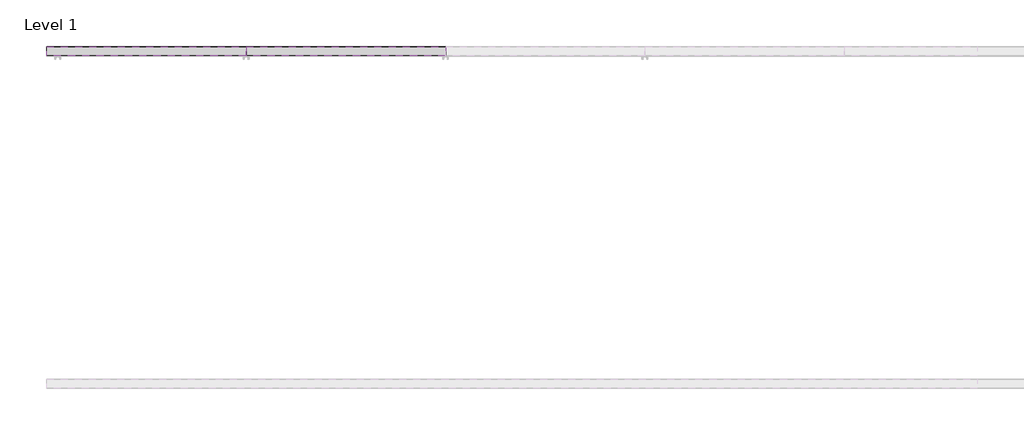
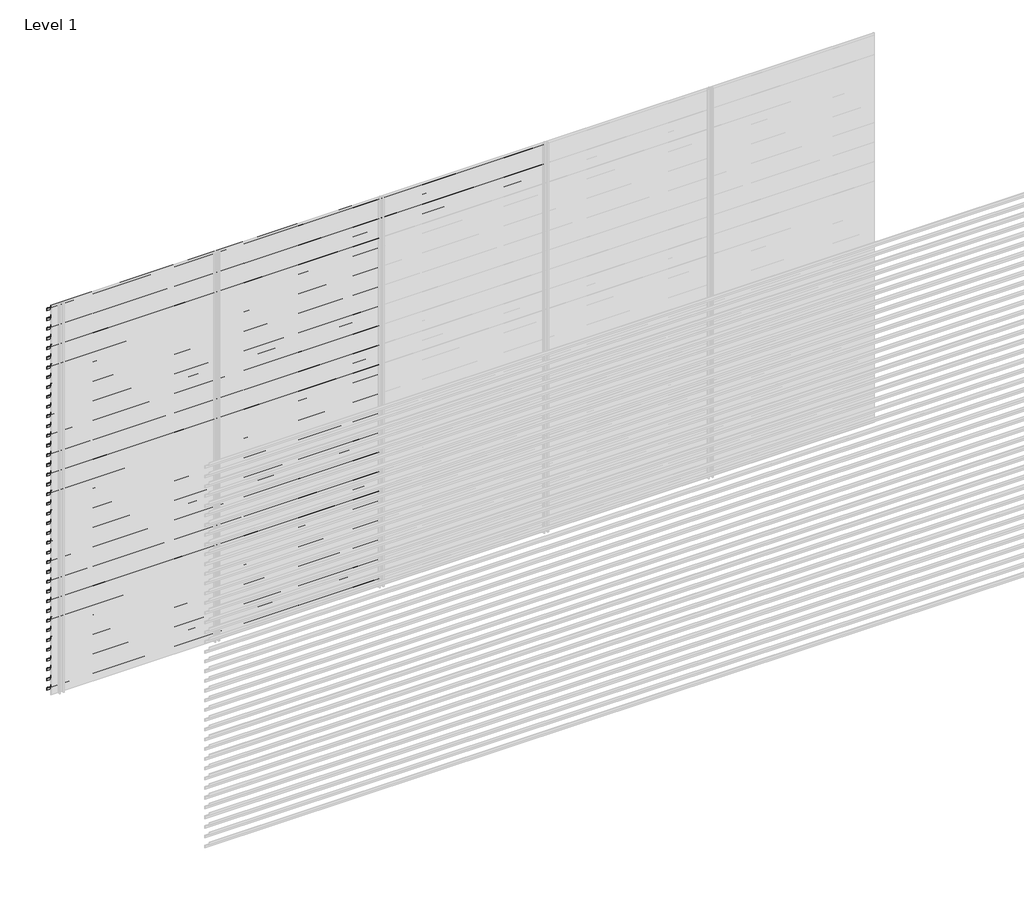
# One storey, part 47 of 55: 84 proxies.
"""IFC4 building model written with IfcOpenShell, lengths in millimetres."""

from ifc_helpers import new_model, si_unit, frame, origin, place, context, project, spatial, polyline, outline, extrude, element, save

model = new_model("IFC4")

# Units and contexts
model_context = context("Model", 3, world=origin())
ifc_project = project(units=[si_unit("LENGTHUNIT", "METRE", prefix="MILLI")], contexts=[model_context])

# Site, building, storey
site = spatial("IfcSite", under=ifc_project)
building = spatial("IfcBuilding", under=site)
storey = spatial("IfcBuildingStorey", under=building, Name="Level 1", Elevation=0.0)

# Proxies
placement = place(None, origin())
element("IfcBuildingElementProxy", 1, Name="Wall Sweeps", at=placement, inside=storey, context=model_context, shape_type="SweptSolid", body=[
    extrude(outline(polyline([(66581.0540136, 2943.5), (66581.0540136, 2923.5), (66579.8040136, 2924.2216933), (66579.8040136, 2942.7872415), (66526.0540136, 2980.3158044), (66526.0540136, 3000.0), (66527.3040136, 3000.0), (66527.3040136, 2981.0285629), (66581.0540136, 2943.5)])), frame((466.6208097, 0.0, 0.0), z_axis=(1.0, 0.0, 0.0), x_axis=(0.0, 1.0, 0.0)), (0.0, 0.0, 1.0), 1200.0000002),
])
element("IfcBuildingElementProxy", 2, Name="Wall Sweeps", at=placement, inside=storey, context=model_context, shape_type="SweptSolid", body=[
    extrude(outline(polyline([(66581.0540136, 2868.5), (66581.0540136, 2848.5), (66579.8040136, 2849.2216933), (66579.8040136, 2867.7872415), (66526.0540136, 2905.3158044), (66526.0540136, 2925.0), (66527.3040136, 2925.0), (66527.3040136, 2906.0285629), (66581.0540136, 2868.5)])), frame((466.6208097, 0.0, 0.0), z_axis=(1.0, 0.0, 0.0), x_axis=(0.0, 1.0, 0.0)), (0.0, 0.0, 1.0), 1200.0000002),
])
element("IfcBuildingElementProxy", 3, Name="Wall Sweeps", at=placement, inside=storey, context=model_context, shape_type="SweptSolid", body=[
    extrude(outline(polyline([(66581.0540136, 2793.5), (66581.0540136, 2773.5), (66579.8040136, 2774.2216933), (66579.8040136, 2792.7872415), (66526.0540136, 2830.3158044), (66526.0540136, 2850.0), (66527.3040136, 2850.0), (66527.3040136, 2831.0285629), (66581.0540136, 2793.5)])), frame((466.6208097, 0.0, 0.0), z_axis=(1.0, 0.0, 0.0), x_axis=(0.0, 1.0, 0.0)), (0.0, 0.0, 1.0), 1200.0000002),
])
element("IfcBuildingElementProxy", 4, Name="Wall Sweeps", at=placement, inside=storey, context=model_context, shape_type="SweptSolid", body=[
    extrude(outline(polyline([(66581.0540136, 2718.5), (66581.0540136, 2698.5), (66579.8040136, 2699.2216933), (66579.8040136, 2717.7872415), (66526.0540136, 2755.3158044), (66526.0540136, 2775.0), (66527.3040136, 2775.0), (66527.3040136, 2756.0285629), (66581.0540136, 2718.5)])), frame((466.6208097, 0.0, 0.0), z_axis=(1.0, 0.0, 0.0), x_axis=(0.0, 1.0, 0.0)), (0.0, 0.0, 1.0), 1200.0000002),
])
element("IfcBuildingElementProxy", 5, Name="Wall Sweeps", at=placement, inside=storey, context=model_context, shape_type="SweptSolid", body=[
    extrude(outline(polyline([(66581.0540136, 2643.5), (66581.0540136, 2623.5), (66579.8040136, 2624.2216933), (66579.8040136, 2642.7872415), (66526.0540136, 2680.3158044), (66526.0540136, 2700.0), (66527.3040136, 2700.0), (66527.3040136, 2681.0285629), (66581.0540136, 2643.5)])), frame((466.6208097, 0.0, 0.0), z_axis=(1.0, 0.0, 0.0), x_axis=(0.0, 1.0, 0.0)), (0.0, 0.0, 1.0), 1200.0000002),
])
element("IfcBuildingElementProxy", 6, Name="Wall Sweeps", at=placement, inside=storey, context=model_context, shape_type="SweptSolid", body=[
    extrude(outline(polyline([(66581.0540136, 2568.5), (66581.0540136, 2548.5), (66579.8040136, 2549.2216933), (66579.8040136, 2567.7872415), (66526.0540136, 2605.3158044), (66526.0540136, 2625.0), (66527.3040136, 2625.0), (66527.3040136, 2606.0285629), (66581.0540136, 2568.5)])), frame((466.6208097, 0.0, 0.0), z_axis=(1.0, 0.0, 0.0), x_axis=(0.0, 1.0, 0.0)), (0.0, 0.0, 1.0), 1200.0000002),
])
element("IfcBuildingElementProxy", 7, Name="Wall Sweeps", at=placement, inside=storey, context=model_context, shape_type="SweptSolid", body=[
    extrude(outline(polyline([(66581.0540136, 2493.5), (66581.0540136, 2473.5), (66579.8040136, 2474.2216933), (66579.8040136, 2492.7872415), (66526.0540136, 2530.3158044), (66526.0540136, 2550.0), (66527.3040136, 2550.0), (66527.3040136, 2531.0285629), (66581.0540136, 2493.5)])), frame((466.6208097, 0.0, 0.0), z_axis=(1.0, 0.0, 0.0), x_axis=(0.0, 1.0, 0.0)), (0.0, 0.0, 1.0), 1200.0000002),
])
element("IfcBuildingElementProxy", 8, Name="Wall Sweeps", at=placement, inside=storey, context=model_context, shape_type="SweptSolid", body=[
    extrude(outline(polyline([(66581.0540136, 2418.5), (66581.0540136, 2398.5), (66579.8040136, 2399.2216933), (66579.8040136, 2417.7872415), (66526.0540136, 2455.3158044), (66526.0540136, 2475.0), (66527.3040136, 2475.0), (66527.3040136, 2456.0285629), (66581.0540136, 2418.5)])), frame((466.6208097, 0.0, 0.0), z_axis=(1.0, 0.0, 0.0), x_axis=(0.0, 1.0, 0.0)), (0.0, 0.0, 1.0), 1200.0000002),
])
element("IfcBuildingElementProxy", 9, Name="Wall Sweeps", at=placement, inside=storey, context=model_context, shape_type="SweptSolid", body=[
    extrude(outline(polyline([(66581.0540136, 2343.5), (66581.0540136, 2323.5), (66579.8040136, 2324.2216933), (66579.8040136, 2342.7872415), (66526.0540136, 2380.3158044), (66526.0540136, 2400.0), (66527.3040136, 2400.0), (66527.3040136, 2381.0285629), (66581.0540136, 2343.5)])), frame((466.6208097, 0.0, 0.0), z_axis=(1.0, 0.0, 0.0), x_axis=(0.0, 1.0, 0.0)), (0.0, 0.0, 1.0), 1200.0000002),
])
element("IfcBuildingElementProxy", 10, Name="Wall Sweeps", at=placement, inside=storey, context=model_context, shape_type="SweptSolid", body=[
    extrude(outline(polyline([(66581.0540136, 2268.5), (66581.0540136, 2248.5), (66579.8040136, 2249.2216933), (66579.8040136, 2267.7872415), (66526.0540136, 2305.3158044), (66526.0540136, 2325.0), (66527.3040136, 2325.0), (66527.3040136, 2306.0285629), (66581.0540136, 2268.5)])), frame((466.6208097, 0.0, 0.0), z_axis=(1.0, 0.0, 0.0), x_axis=(0.0, 1.0, 0.0)), (0.0, 0.0, 1.0), 1200.0000002),
])
element("IfcBuildingElementProxy", 11, Name="Wall Sweeps", at=placement, inside=storey, context=model_context, shape_type="SweptSolid", body=[
    extrude(outline(polyline([(66581.0540136, 2193.5), (66581.0540136, 2173.5), (66579.8040136, 2174.2216933), (66579.8040136, 2192.7872415), (66526.0540136, 2230.3158044), (66526.0540136, 2250.0), (66527.3040136, 2250.0), (66527.3040136, 2231.0285629), (66581.0540136, 2193.5)])), frame((466.6208097, 0.0, 0.0), z_axis=(1.0, 0.0, 0.0), x_axis=(0.0, 1.0, 0.0)), (0.0, 0.0, 1.0), 1200.0000002),
])
element("IfcBuildingElementProxy", 12, Name="Wall Sweeps", at=placement, inside=storey, context=model_context, shape_type="SweptSolid", body=[
    extrude(outline(polyline([(66581.0540136, 2118.5), (66581.0540136, 2098.5), (66579.8040136, 2099.2216933), (66579.8040136, 2117.7872415), (66526.0540136, 2155.3158044), (66526.0540136, 2175.0), (66527.3040136, 2175.0), (66527.3040136, 2156.0285629), (66581.0540136, 2118.5)])), frame((466.6208097, 0.0, 0.0), z_axis=(1.0, 0.0, 0.0), x_axis=(0.0, 1.0, 0.0)), (0.0, 0.0, 1.0), 1200.0000002),
])
element("IfcBuildingElementProxy", 13, Name="Wall Sweeps", at=placement, inside=storey, context=model_context, shape_type="SweptSolid", body=[
    extrude(outline(polyline([(66581.0540136, 2043.5), (66581.0540136, 2023.5), (66579.8040136, 2024.2216933), (66579.8040136, 2042.7872415), (66526.0540136, 2080.3158044), (66526.0540136, 2100.0), (66527.3040136, 2100.0), (66527.3040136, 2081.0285629), (66581.0540136, 2043.5)])), frame((466.6208097, 0.0, 0.0), z_axis=(1.0, 0.0, 0.0), x_axis=(0.0, 1.0, 0.0)), (0.0, 0.0, 1.0), 1200.0000002),
])
element("IfcBuildingElementProxy", 14, Name="Wall Sweeps", at=placement, inside=storey, context=model_context, shape_type="SweptSolid", body=[
    extrude(outline(polyline([(66581.0540136, 1968.5), (66581.0540136, 1948.5), (66579.8040136, 1949.2216933), (66579.8040136, 1967.7872415), (66526.0540136, 2005.3158044), (66526.0540136, 2025.0), (66527.3040136, 2025.0), (66527.3040136, 2006.0285629), (66581.0540136, 1968.5)])), frame((466.6208097, 0.0, 0.0), z_axis=(1.0, 0.0, 0.0), x_axis=(0.0, 1.0, 0.0)), (0.0, 0.0, 1.0), 1200.0000002),
])
element("IfcBuildingElementProxy", 15, Name="Wall Sweeps", at=placement, inside=storey, context=model_context, shape_type="SweptSolid", body=[
    extrude(outline(polyline([(66581.0540136, 1893.5), (66581.0540136, 1873.5), (66579.8040136, 1874.2216933), (66579.8040136, 1892.7872415), (66526.0540136, 1930.3158044), (66526.0540136, 1950.0), (66527.3040136, 1950.0), (66527.3040136, 1931.0285629), (66581.0540136, 1893.5)])), frame((466.6208097, 0.0, 0.0), z_axis=(1.0, 0.0, 0.0), x_axis=(0.0, 1.0, 0.0)), (0.0, 0.0, 1.0), 1200.0000002),
])
element("IfcBuildingElementProxy", 16, Name="Wall Sweeps", at=placement, inside=storey, context=model_context, shape_type="SweptSolid", body=[
    extrude(outline(polyline([(66581.0540136, 1818.5), (66581.0540136, 1798.5), (66579.8040136, 1799.2216933), (66579.8040136, 1817.7872415), (66526.0540136, 1855.3158044), (66526.0540136, 1875.0), (66527.3040136, 1875.0), (66527.3040136, 1856.0285629), (66581.0540136, 1818.5)])), frame((466.6208097, 0.0, 0.0), z_axis=(1.0, 0.0, 0.0), x_axis=(0.0, 1.0, 0.0)), (0.0, 0.0, 1.0), 1200.0000002),
])
element("IfcBuildingElementProxy", 17, Name="Wall Sweeps", at=placement, inside=storey, context=model_context, shape_type="SweptSolid", body=[
    extrude(outline(polyline([(66581.0540136, 1743.5), (66581.0540136, 1723.5), (66579.8040136, 1724.2216933), (66579.8040136, 1742.7872415), (66526.0540136, 1780.3158044), (66526.0540136, 1800.0), (66527.3040136, 1800.0), (66527.3040136, 1781.0285629), (66581.0540136, 1743.5)])), frame((466.6208097, 0.0, 0.0), z_axis=(1.0, 0.0, 0.0), x_axis=(0.0, 1.0, 0.0)), (0.0, 0.0, 1.0), 1200.0000002),
])
element("IfcBuildingElementProxy", 18, Name="Wall Sweeps", at=placement, inside=storey, context=model_context, shape_type="SweptSolid", body=[
    extrude(outline(polyline([(66581.0540136, 1668.5), (66581.0540136, 1648.5), (66579.8040136, 1649.2216933), (66579.8040136, 1667.7872415), (66526.0540136, 1705.3158044), (66526.0540136, 1725.0), (66527.3040136, 1725.0), (66527.3040136, 1706.0285629), (66581.0540136, 1668.5)])), frame((466.6208097, 0.0, 0.0), z_axis=(1.0, 0.0, 0.0), x_axis=(0.0, 1.0, 0.0)), (0.0, 0.0, 1.0), 1200.0000002),
])
element("IfcBuildingElementProxy", 19, Name="Wall Sweeps", at=placement, inside=storey, context=model_context, shape_type="SweptSolid", body=[
    extrude(outline(polyline([(66581.0540136, 1593.5), (66581.0540136, 1573.5), (66579.8040136, 1574.2216933), (66579.8040136, 1592.7872415), (66526.0540136, 1630.3158044), (66526.0540136, 1650.0), (66527.3040136, 1650.0), (66527.3040136, 1631.0285629), (66581.0540136, 1593.5)])), frame((466.6208097, 0.0, 0.0), z_axis=(1.0, 0.0, 0.0), x_axis=(0.0, 1.0, 0.0)), (0.0, 0.0, 1.0), 1200.0000002),
])
element("IfcBuildingElementProxy", 20, Name="Wall Sweeps", at=placement, inside=storey, context=model_context, shape_type="SweptSolid", body=[
    extrude(outline(polyline([(66581.0540136, 1518.5), (66581.0540136, 1498.5), (66579.8040136, 1499.2216933), (66579.8040136, 1517.7872415), (66526.0540136, 1555.3158044), (66526.0540136, 1575.0), (66527.3040136, 1575.0), (66527.3040136, 1556.0285629), (66581.0540136, 1518.5)])), frame((466.6208097, 0.0, 0.0), z_axis=(1.0, 0.0, 0.0), x_axis=(0.0, 1.0, 0.0)), (0.0, 0.0, 1.0), 1200.0000002),
])
element("IfcBuildingElementProxy", 21, Name="Wall Sweeps", at=placement, inside=storey, context=model_context, shape_type="SweptSolid", body=[
    extrude(outline(polyline([(66581.0540136, 1443.5), (66581.0540136, 1423.5), (66579.8040136, 1424.2216933), (66579.8040136, 1442.7872415), (66526.0540136, 1480.3158044), (66526.0540136, 1500.0), (66527.3040136, 1500.0), (66527.3040136, 1481.0285629), (66581.0540136, 1443.5)])), frame((466.6208097, 0.0, 0.0), z_axis=(1.0, 0.0, 0.0), x_axis=(0.0, 1.0, 0.0)), (0.0, 0.0, 1.0), 1200.0000002),
])
element("IfcBuildingElementProxy", 22, Name="Wall Sweeps", at=placement, inside=storey, context=model_context, shape_type="SweptSolid", body=[
    extrude(outline(polyline([(66581.0540136, 1368.5), (66581.0540136, 1348.5), (66579.8040136, 1349.2216933), (66579.8040136, 1367.7872415), (66526.0540136, 1405.3158044), (66526.0540136, 1425.0), (66527.3040136, 1425.0), (66527.3040136, 1406.0285629), (66581.0540136, 1368.5)])), frame((466.6208097, 0.0, 0.0), z_axis=(1.0, 0.0, 0.0), x_axis=(0.0, 1.0, 0.0)), (0.0, 0.0, 1.0), 1200.0000002),
])
element("IfcBuildingElementProxy", 23, Name="Wall Sweeps", at=placement, inside=storey, context=model_context, shape_type="SweptSolid", body=[
    extrude(outline(polyline([(66581.0540136, 1293.5), (66581.0540136, 1273.5), (66579.8040136, 1274.2216933), (66579.8040136, 1292.7872415), (66526.0540136, 1330.3158044), (66526.0540136, 1350.0), (66527.3040136, 1350.0), (66527.3040136, 1331.0285629), (66581.0540136, 1293.5)])), frame((466.6208097, 0.0, 0.0), z_axis=(1.0, 0.0, 0.0), x_axis=(0.0, 1.0, 0.0)), (0.0, 0.0, 1.0), 1200.0000002),
])
element("IfcBuildingElementProxy", 24, Name="Wall Sweeps", at=placement, inside=storey, context=model_context, shape_type="SweptSolid", body=[
    extrude(outline(polyline([(66581.0540136, 1218.5), (66581.0540136, 1198.5), (66579.8040136, 1199.2216933), (66579.8040136, 1217.7872415), (66526.0540136, 1255.3158044), (66526.0540136, 1275.0), (66527.3040136, 1275.0), (66527.3040136, 1256.0285629), (66581.0540136, 1218.5)])), frame((466.6208097, 0.0, 0.0), z_axis=(1.0, 0.0, 0.0), x_axis=(0.0, 1.0, 0.0)), (0.0, 0.0, 1.0), 1200.0000002),
])
element("IfcBuildingElementProxy", 25, Name="Wall Sweeps", at=placement, inside=storey, context=model_context, shape_type="SweptSolid", body=[
    extrude(outline(polyline([(66581.0540136, 1143.5), (66581.0540136, 1123.5), (66579.8040136, 1124.2216933), (66579.8040136, 1142.7872415), (66526.0540136, 1180.3158044), (66526.0540136, 1200.0), (66527.3040136, 1200.0), (66527.3040136, 1181.0285629), (66581.0540136, 1143.5)])), frame((466.6208097, 0.0, 0.0), z_axis=(1.0, 0.0, 0.0), x_axis=(0.0, 1.0, 0.0)), (0.0, 0.0, 1.0), 1200.0000002),
])
element("IfcBuildingElementProxy", 26, Name="Wall Sweeps", at=placement, inside=storey, context=model_context, shape_type="SweptSolid", body=[
    extrude(outline(polyline([(66581.0540136, 1068.5), (66581.0540136, 1048.5), (66579.8040136, 1049.2216933), (66579.8040136, 1067.7872415), (66526.0540136, 1105.3158044), (66526.0540136, 1125.0), (66527.3040136, 1125.0), (66527.3040136, 1106.0285629), (66581.0540136, 1068.5)])), frame((466.6208097, 0.0, 0.0), z_axis=(1.0, 0.0, 0.0), x_axis=(0.0, 1.0, 0.0)), (0.0, 0.0, 1.0), 1200.0000002),
])
element("IfcBuildingElementProxy", 27, Name="Wall Sweeps", at=placement, inside=storey, context=model_context, shape_type="SweptSolid", body=[
    extrude(outline(polyline([(66581.0540136, 993.5), (66581.0540136, 973.5), (66579.8040136, 974.2216933), (66579.8040136, 992.7872415), (66526.0540136, 1030.3158044), (66526.0540136, 1050.0), (66527.3040136, 1050.0), (66527.3040136, 1031.0285629), (66581.0540136, 993.5)])), frame((466.6208097, 0.0, 0.0), z_axis=(1.0, 0.0, 0.0), x_axis=(0.0, 1.0, 0.0)), (0.0, 0.0, 1.0), 1200.0000002),
])
element("IfcBuildingElementProxy", 28, Name="Wall Sweeps", at=placement, inside=storey, context=model_context, shape_type="SweptSolid", body=[
    extrude(outline(polyline([(66581.0540136, 918.5), (66581.0540136, 898.5), (66579.8040136, 899.2216933), (66579.8040136, 917.7872415), (66526.0540136, 955.3158044), (66526.0540136, 975.0), (66527.3040136, 975.0), (66527.3040136, 956.0285629), (66581.0540136, 918.5)])), frame((466.6208097, 0.0, 0.0), z_axis=(1.0, 0.0, 0.0), x_axis=(0.0, 1.0, 0.0)), (0.0, 0.0, 1.0), 1200.0000002),
])
element("IfcBuildingElementProxy", 29, Name="Wall Sweeps", at=placement, inside=storey, context=model_context, shape_type="SweptSolid", body=[
    extrude(outline(polyline([(66581.0540136, 843.5), (66581.0540136, 823.5), (66579.8040136, 824.2216933), (66579.8040136, 842.7872415), (66526.0540136, 880.3158044), (66526.0540136, 900.0), (66527.3040136, 900.0), (66527.3040136, 881.0285629), (66581.0540136, 843.5)])), frame((466.6208097, 0.0, 0.0), z_axis=(1.0, 0.0, 0.0), x_axis=(0.0, 1.0, 0.0)), (0.0, 0.0, 1.0), 1200.0000002),
])
element("IfcBuildingElementProxy", 30, Name="Wall Sweeps", at=placement, inside=storey, context=model_context, shape_type="SweptSolid", body=[
    extrude(outline(polyline([(66581.0540136, 768.5), (66581.0540136, 748.5), (66579.8040136, 749.2216933), (66579.8040136, 767.7872415), (66526.0540136, 805.3158044), (66526.0540136, 825.0), (66527.3040136, 825.0), (66527.3040136, 806.0285629), (66581.0540136, 768.5)])), frame((466.6208097, 0.0, 0.0), z_axis=(1.0, 0.0, 0.0), x_axis=(0.0, 1.0, 0.0)), (0.0, 0.0, 1.0), 1200.0000002),
])
element("IfcBuildingElementProxy", 31, Name="Wall Sweeps", at=placement, inside=storey, context=model_context, shape_type="SweptSolid", body=[
    extrude(outline(polyline([(66581.0540136, 693.5), (66581.0540136, 673.5), (66579.8040136, 674.2216933), (66579.8040136, 692.7872415), (66526.0540136, 730.3158044), (66526.0540136, 750.0), (66527.3040136, 750.0), (66527.3040136, 731.0285629), (66581.0540136, 693.5)])), frame((466.6208097, 0.0, 0.0), z_axis=(1.0, 0.0, 0.0), x_axis=(0.0, 1.0, 0.0)), (0.0, 0.0, 1.0), 1200.0000002),
])
element("IfcBuildingElementProxy", 32, Name="Wall Sweeps", at=placement, inside=storey, context=model_context, shape_type="SweptSolid", body=[
    extrude(outline(polyline([(66581.0540136, 618.5), (66581.0540136, 598.5), (66579.8040136, 599.2216933), (66579.8040136, 617.7872415), (66526.0540136, 655.3158044), (66526.0540136, 675.0), (66527.3040136, 675.0), (66527.3040136, 656.0285629), (66581.0540136, 618.5)])), frame((466.6208097, 0.0, 0.0), z_axis=(1.0, 0.0, 0.0), x_axis=(0.0, 1.0, 0.0)), (0.0, 0.0, 1.0), 1200.0000002),
])
element("IfcBuildingElementProxy", 33, Name="Wall Sweeps", at=placement, inside=storey, context=model_context, shape_type="SweptSolid", body=[
    extrude(outline(polyline([(66581.0540136, 543.5), (66581.0540136, 523.5), (66579.8040136, 524.2216933), (66579.8040136, 542.7872415), (66526.0540136, 580.3158044), (66526.0540136, 600.0), (66527.3040136, 600.0), (66527.3040136, 581.0285629), (66581.0540136, 543.5)])), frame((466.6208097, 0.0, 0.0), z_axis=(1.0, 0.0, 0.0), x_axis=(0.0, 1.0, 0.0)), (0.0, 0.0, 1.0), 1200.0000002),
])
element("IfcBuildingElementProxy", 34, Name="Wall Sweeps", at=placement, inside=storey, context=model_context, shape_type="SweptSolid", body=[
    extrude(outline(polyline([(66581.0540136, 468.5), (66581.0540136, 448.5), (66579.8040136, 449.2216933), (66579.8040136, 467.7872415), (66526.0540136, 505.3158044), (66526.0540136, 525.0), (66527.3040136, 525.0), (66527.3040136, 506.0285629), (66581.0540136, 468.5)])), frame((466.6208097, 0.0, 0.0), z_axis=(1.0, 0.0, 0.0), x_axis=(0.0, 1.0, 0.0)), (0.0, 0.0, 1.0), 1200.0000002),
])
element("IfcBuildingElementProxy", 35, Name="Wall Sweeps", at=placement, inside=storey, context=model_context, shape_type="SweptSolid", body=[
    extrude(outline(polyline([(66581.0540136, 393.5), (66581.0540136, 373.5), (66579.8040136, 374.2216933), (66579.8040136, 392.7872415), (66526.0540136, 430.3158044), (66526.0540136, 450.0), (66527.3040136, 450.0), (66527.3040136, 431.0285629), (66581.0540136, 393.5)])), frame((466.6208097, 0.0, 0.0), z_axis=(1.0, 0.0, 0.0), x_axis=(0.0, 1.0, 0.0)), (0.0, 0.0, 1.0), 1200.0000002),
])
element("IfcBuildingElementProxy", 36, Name="Wall Sweeps", at=placement, inside=storey, context=model_context, shape_type="SweptSolid", body=[
    extrude(outline(polyline([(66581.0540136, 318.5), (66581.0540136, 298.5), (66579.8040136, 299.2216933), (66579.8040136, 317.7872415), (66526.0540136, 355.3158044), (66526.0540136, 375.0), (66527.3040136, 375.0), (66527.3040136, 356.0285629), (66581.0540136, 318.5)])), frame((466.6208097, 0.0, 0.0), z_axis=(1.0, 0.0, 0.0), x_axis=(0.0, 1.0, 0.0)), (0.0, 0.0, 1.0), 1200.0000002),
])
element("IfcBuildingElementProxy", 37, Name="Wall Sweeps", at=placement, inside=storey, context=model_context, shape_type="SweptSolid", body=[
    extrude(outline(polyline([(66581.0540136, 243.5), (66581.0540136, 223.5), (66579.8040136, 224.2216933), (66579.8040136, 242.7872415), (66526.0540136, 280.3158044), (66526.0540136, 300.0), (66527.3040136, 300.0), (66527.3040136, 281.0285629), (66581.0540136, 243.5)])), frame((466.6208097, 0.0, 0.0), z_axis=(1.0, 0.0, 0.0), x_axis=(0.0, 1.0, 0.0)), (0.0, 0.0, 1.0), 1200.0000002),
])
element("IfcBuildingElementProxy", 38, Name="Wall Sweeps", at=placement, inside=storey, context=model_context, shape_type="SweptSolid", body=[
    extrude(outline(polyline([(66581.0540136, 168.5), (66581.0540136, 148.5), (66579.8040136, 149.2216933), (66579.8040136, 167.7872415), (66526.0540136, 205.3158044), (66526.0540136, 225.0), (66527.3040136, 225.0), (66527.3040136, 206.0285629), (66581.0540136, 168.5)])), frame((466.6208097, 0.0, 0.0), z_axis=(1.0, 0.0, 0.0), x_axis=(0.0, 1.0, 0.0)), (0.0, 0.0, 1.0), 1200.0000002),
])
element("IfcBuildingElementProxy", 39, Name="Wall Sweeps", at=placement, inside=storey, context=model_context, shape_type="SweptSolid", body=[
    extrude(outline(polyline([(66581.0540136, 93.5), (66581.0540136, 73.5), (66579.8040136, 74.2216933), (66579.8040136, 92.7872415), (66526.0540136, 130.3158044), (66526.0540136, 150.0), (66527.3040136, 150.0), (66527.3040136, 131.0285629), (66581.0540136, 93.5)])), frame((466.6208097, 0.0, 0.0), z_axis=(1.0, 0.0, 0.0), x_axis=(0.0, 1.0, 0.0)), (0.0, 0.0, 1.0), 1200.0000002),
])
element("IfcBuildingElementProxy", 40, Name="Wall Sweeps", at=placement, inside=storey, context=model_context, shape_type="SweptSolid", body=[
    extrude(outline(polyline([(66581.0540136, 18.5), (66581.0540136, -1.5), (66579.8040136, -0.7783067), (66579.8040136, 17.7872415), (66526.0540136, 55.3158044), (66526.0540136, 75.0), (66527.3040136, 75.0), (66527.3040136, 56.0285629), (66581.0540136, 18.5)])), frame((466.6208097, 0.0, 0.0), z_axis=(1.0, 0.0, 0.0), x_axis=(0.0, 1.0, 0.0)), (0.0, 0.0, 1.0), 1200.0000002),
])
element("IfcBuildingElementProxy", 41, Name="Wall Sweeps", at=placement, inside=storey, context=model_context, shape_type="SweptSolid", body=[
    extrude(outline(polyline([(66581.0540136, 2943.5), (66581.0540136, 2923.5), (66579.8040136, 2924.2216933), (66579.8040136, 2942.7872415), (66526.0540136, 2980.3158044), (66526.0540136, 3000.0), (66527.3040136, 3000.0), (66527.3040136, 2981.0285629), (66581.0540136, 2943.5)])), frame((1666.6208099, 0.0, 0.0), z_axis=(1.0, 0.0, 0.0), x_axis=(0.0, 1.0, 0.0)), (0.0, 0.0, 1.0), 1199.9999999),
])
element("IfcBuildingElementProxy", 42, Name="Wall Sweeps", at=placement, inside=storey, context=model_context, shape_type="SweptSolid", body=[
    extrude(outline(polyline([(66581.0540136, 2868.5), (66581.0540136, 2848.5), (66579.8040136, 2849.2216933), (66579.8040136, 2867.7872415), (66526.0540136, 2905.3158044), (66526.0540136, 2925.0), (66527.3040136, 2925.0), (66527.3040136, 2906.0285629), (66581.0540136, 2868.5)])), frame((1666.6208099, 0.0, 0.0), z_axis=(1.0, 0.0, 0.0), x_axis=(0.0, 1.0, 0.0)), (0.0, 0.0, 1.0), 1199.9999999),
])
element("IfcBuildingElementProxy", 43, Name="Wall Sweeps", at=placement, inside=storey, context=model_context, shape_type="SweptSolid", body=[
    extrude(outline(polyline([(66581.0540136, 2793.5), (66581.0540136, 2773.5), (66579.8040136, 2774.2216933), (66579.8040136, 2792.7872415), (66526.0540136, 2830.3158044), (66526.0540136, 2850.0), (66527.3040136, 2850.0), (66527.3040136, 2831.0285629), (66581.0540136, 2793.5)])), frame((1666.6208099, 0.0, 0.0), z_axis=(1.0, 0.0, 0.0), x_axis=(0.0, 1.0, 0.0)), (0.0, 0.0, 1.0), 1199.9999999),
])
element("IfcBuildingElementProxy", 44, Name="Wall Sweeps", at=placement, inside=storey, context=model_context, shape_type="SweptSolid", body=[
    extrude(outline(polyline([(66581.0540136, 2718.5), (66581.0540136, 2698.5), (66579.8040136, 2699.2216933), (66579.8040136, 2717.7872415), (66526.0540136, 2755.3158044), (66526.0540136, 2775.0), (66527.3040136, 2775.0), (66527.3040136, 2756.0285629), (66581.0540136, 2718.5)])), frame((1666.6208099, 0.0, 0.0), z_axis=(1.0, 0.0, 0.0), x_axis=(0.0, 1.0, 0.0)), (0.0, 0.0, 1.0), 1199.9999999),
])
element("IfcBuildingElementProxy", 45, Name="Wall Sweeps", at=placement, inside=storey, context=model_context, shape_type="SweptSolid", body=[
    extrude(outline(polyline([(66581.0540136, 2643.5), (66581.0540136, 2623.5), (66579.8040136, 2624.2216933), (66579.8040136, 2642.7872415), (66526.0540136, 2680.3158044), (66526.0540136, 2700.0), (66527.3040136, 2700.0), (66527.3040136, 2681.0285629), (66581.0540136, 2643.5)])), frame((1666.6208099, 0.0, 0.0), z_axis=(1.0, 0.0, 0.0), x_axis=(0.0, 1.0, 0.0)), (0.0, 0.0, 1.0), 1199.9999999),
])
element("IfcBuildingElementProxy", 46, Name="Wall Sweeps", at=placement, inside=storey, context=model_context, shape_type="SweptSolid", body=[
    extrude(outline(polyline([(66581.0540136, 2568.5), (66581.0540136, 2548.5), (66579.8040136, 2549.2216933), (66579.8040136, 2567.7872415), (66526.0540136, 2605.3158044), (66526.0540136, 2625.0), (66527.3040136, 2625.0), (66527.3040136, 2606.0285629), (66581.0540136, 2568.5)])), frame((1666.6208099, 0.0, 0.0), z_axis=(1.0, 0.0, 0.0), x_axis=(0.0, 1.0, 0.0)), (0.0, 0.0, 1.0), 1199.9999999),
])
element("IfcBuildingElementProxy", 47, Name="Wall Sweeps", at=placement, inside=storey, context=model_context, shape_type="SweptSolid", body=[
    extrude(outline(polyline([(66581.0540136, 2493.5), (66581.0540136, 2473.5), (66579.8040136, 2474.2216933), (66579.8040136, 2492.7872415), (66526.0540136, 2530.3158044), (66526.0540136, 2550.0), (66527.3040136, 2550.0), (66527.3040136, 2531.0285629), (66581.0540136, 2493.5)])), frame((1666.6208099, 0.0, 0.0), z_axis=(1.0, 0.0, 0.0), x_axis=(0.0, 1.0, 0.0)), (0.0, 0.0, 1.0), 1199.9999999),
])
element("IfcBuildingElementProxy", 48, Name="Wall Sweeps", at=placement, inside=storey, context=model_context, shape_type="SweptSolid", body=[
    extrude(outline(polyline([(66581.0540136, 2418.5), (66581.0540136, 2398.5), (66579.8040136, 2399.2216933), (66579.8040136, 2417.7872415), (66526.0540136, 2455.3158044), (66526.0540136, 2475.0), (66527.3040136, 2475.0), (66527.3040136, 2456.0285629), (66581.0540136, 2418.5)])), frame((1666.6208099, 0.0, 0.0), z_axis=(1.0, 0.0, 0.0), x_axis=(0.0, 1.0, 0.0)), (0.0, 0.0, 1.0), 1199.9999999),
])
element("IfcBuildingElementProxy", 49, Name="Wall Sweeps", at=placement, inside=storey, context=model_context, shape_type="SweptSolid", body=[
    extrude(outline(polyline([(66581.0540136, 2343.5), (66581.0540136, 2323.5), (66579.8040136, 2324.2216933), (66579.8040136, 2342.7872415), (66526.0540136, 2380.3158044), (66526.0540136, 2400.0), (66527.3040136, 2400.0), (66527.3040136, 2381.0285629), (66581.0540136, 2343.5)])), frame((1666.6208099, 0.0, 0.0), z_axis=(1.0, 0.0, 0.0), x_axis=(0.0, 1.0, 0.0)), (0.0, 0.0, 1.0), 1199.9999999),
])
element("IfcBuildingElementProxy", 50, Name="Wall Sweeps", at=placement, inside=storey, context=model_context, shape_type="SweptSolid", body=[
    extrude(outline(polyline([(66581.0540136, 2268.5), (66581.0540136, 2248.5), (66579.8040136, 2249.2216933), (66579.8040136, 2267.7872415), (66526.0540136, 2305.3158044), (66526.0540136, 2325.0), (66527.3040136, 2325.0), (66527.3040136, 2306.0285629), (66581.0540136, 2268.5)])), frame((1666.6208099, 0.0, 0.0), z_axis=(1.0, 0.0, 0.0), x_axis=(0.0, 1.0, 0.0)), (0.0, 0.0, 1.0), 1199.9999999),
])
element("IfcBuildingElementProxy", 51, Name="Wall Sweeps", at=placement, inside=storey, context=model_context, shape_type="SweptSolid", body=[
    extrude(outline(polyline([(66581.0540136, 2193.5), (66581.0540136, 2173.5), (66579.8040136, 2174.2216933), (66579.8040136, 2192.7872415), (66526.0540136, 2230.3158044), (66526.0540136, 2250.0), (66527.3040136, 2250.0), (66527.3040136, 2231.0285629), (66581.0540136, 2193.5)])), frame((1666.6208099, 0.0, 0.0), z_axis=(1.0, 0.0, 0.0), x_axis=(0.0, 1.0, 0.0)), (0.0, 0.0, 1.0), 1199.9999999),
])
element("IfcBuildingElementProxy", 52, Name="Wall Sweeps", at=placement, inside=storey, context=model_context, shape_type="SweptSolid", body=[
    extrude(outline(polyline([(66581.0540136, 2118.5), (66581.0540136, 2098.5), (66579.8040136, 2099.2216933), (66579.8040136, 2117.7872415), (66526.0540136, 2155.3158044), (66526.0540136, 2175.0), (66527.3040136, 2175.0), (66527.3040136, 2156.0285629), (66581.0540136, 2118.5)])), frame((1666.6208099, 0.0, 0.0), z_axis=(1.0, 0.0, 0.0), x_axis=(0.0, 1.0, 0.0)), (0.0, 0.0, 1.0), 1199.9999999),
])
element("IfcBuildingElementProxy", 53, Name="Wall Sweeps", at=placement, inside=storey, context=model_context, shape_type="SweptSolid", body=[
    extrude(outline(polyline([(66581.0540136, 2043.5), (66581.0540136, 2023.5), (66579.8040136, 2024.2216933), (66579.8040136, 2042.7872415), (66526.0540136, 2080.3158044), (66526.0540136, 2100.0), (66527.3040136, 2100.0), (66527.3040136, 2081.0285629), (66581.0540136, 2043.5)])), frame((1666.6208099, 0.0, 0.0), z_axis=(1.0, 0.0, 0.0), x_axis=(0.0, 1.0, 0.0)), (0.0, 0.0, 1.0), 1199.9999999),
])
element("IfcBuildingElementProxy", 54, Name="Wall Sweeps", at=placement, inside=storey, context=model_context, shape_type="SweptSolid", body=[
    extrude(outline(polyline([(66581.0540136, 1968.5), (66581.0540136, 1948.5), (66579.8040136, 1949.2216933), (66579.8040136, 1967.7872415), (66526.0540136, 2005.3158044), (66526.0540136, 2025.0), (66527.3040136, 2025.0), (66527.3040136, 2006.0285629), (66581.0540136, 1968.5)])), frame((1666.6208099, 0.0, 0.0), z_axis=(1.0, 0.0, 0.0), x_axis=(0.0, 1.0, 0.0)), (0.0, 0.0, 1.0), 1199.9999999),
])
element("IfcBuildingElementProxy", 55, Name="Wall Sweeps", at=placement, inside=storey, context=model_context, shape_type="SweptSolid", body=[
    extrude(outline(polyline([(66581.0540136, 1893.5), (66581.0540136, 1873.5), (66579.8040136, 1874.2216933), (66579.8040136, 1892.7872415), (66526.0540136, 1930.3158044), (66526.0540136, 1950.0), (66527.3040136, 1950.0), (66527.3040136, 1931.0285629), (66581.0540136, 1893.5)])), frame((1666.6208099, 0.0, 0.0), z_axis=(1.0, 0.0, 0.0), x_axis=(0.0, 1.0, 0.0)), (0.0, 0.0, 1.0), 1199.9999999),
])
element("IfcBuildingElementProxy", 56, Name="Wall Sweeps", at=placement, inside=storey, context=model_context, shape_type="SweptSolid", body=[
    extrude(outline(polyline([(66581.0540136, 1818.5), (66581.0540136, 1798.5), (66579.8040136, 1799.2216933), (66579.8040136, 1817.7872415), (66526.0540136, 1855.3158044), (66526.0540136, 1875.0), (66527.3040136, 1875.0), (66527.3040136, 1856.0285629), (66581.0540136, 1818.5)])), frame((1666.6208099, 0.0, 0.0), z_axis=(1.0, 0.0, 0.0), x_axis=(0.0, 1.0, 0.0)), (0.0, 0.0, 1.0), 1199.9999999),
])
element("IfcBuildingElementProxy", 57, Name="Wall Sweeps", at=placement, inside=storey, context=model_context, shape_type="SweptSolid", body=[
    extrude(outline(polyline([(66581.0540136, 1743.5), (66581.0540136, 1723.5), (66579.8040136, 1724.2216933), (66579.8040136, 1742.7872415), (66526.0540136, 1780.3158044), (66526.0540136, 1800.0), (66527.3040136, 1800.0), (66527.3040136, 1781.0285629), (66581.0540136, 1743.5)])), frame((1666.6208099, 0.0, 0.0), z_axis=(1.0, 0.0, 0.0), x_axis=(0.0, 1.0, 0.0)), (0.0, 0.0, 1.0), 1199.9999999),
])
element("IfcBuildingElementProxy", 58, Name="Wall Sweeps", at=placement, inside=storey, context=model_context, shape_type="SweptSolid", body=[
    extrude(outline(polyline([(66581.0540136, 1668.5), (66581.0540136, 1648.5), (66579.8040136, 1649.2216933), (66579.8040136, 1667.7872415), (66526.0540136, 1705.3158044), (66526.0540136, 1725.0), (66527.3040136, 1725.0), (66527.3040136, 1706.0285629), (66581.0540136, 1668.5)])), frame((1666.6208099, 0.0, 0.0), z_axis=(1.0, 0.0, 0.0), x_axis=(0.0, 1.0, 0.0)), (0.0, 0.0, 1.0), 1199.9999999),
])
element("IfcBuildingElementProxy", 59, Name="Wall Sweeps", at=placement, inside=storey, context=model_context, shape_type="SweptSolid", body=[
    extrude(outline(polyline([(66581.0540136, 1593.5), (66581.0540136, 1573.5), (66579.8040136, 1574.2216933), (66579.8040136, 1592.7872415), (66526.0540136, 1630.3158044), (66526.0540136, 1650.0), (66527.3040136, 1650.0), (66527.3040136, 1631.0285629), (66581.0540136, 1593.5)])), frame((1666.6208099, 0.0, 0.0), z_axis=(1.0, 0.0, 0.0), x_axis=(0.0, 1.0, 0.0)), (0.0, 0.0, 1.0), 1199.9999999),
])
element("IfcBuildingElementProxy", 60, Name="Wall Sweeps", at=placement, inside=storey, context=model_context, shape_type="SweptSolid", body=[
    extrude(outline(polyline([(66581.0540136, 1518.5), (66581.0540136, 1498.5), (66579.8040136, 1499.2216933), (66579.8040136, 1517.7872415), (66526.0540136, 1555.3158044), (66526.0540136, 1575.0), (66527.3040136, 1575.0), (66527.3040136, 1556.0285629), (66581.0540136, 1518.5)])), frame((1666.6208099, 0.0, 0.0), z_axis=(1.0, 0.0, 0.0), x_axis=(0.0, 1.0, 0.0)), (0.0, 0.0, 1.0), 1199.9999999),
])
element("IfcBuildingElementProxy", 61, Name="Wall Sweeps", at=placement, inside=storey, context=model_context, shape_type="SweptSolid", body=[
    extrude(outline(polyline([(66581.0540136, 1443.5), (66581.0540136, 1423.5), (66579.8040136, 1424.2216933), (66579.8040136, 1442.7872415), (66526.0540136, 1480.3158044), (66526.0540136, 1500.0), (66527.3040136, 1500.0), (66527.3040136, 1481.0285629), (66581.0540136, 1443.5)])), frame((1666.6208099, 0.0, 0.0), z_axis=(1.0, 0.0, 0.0), x_axis=(0.0, 1.0, 0.0)), (0.0, 0.0, 1.0), 1199.9999999),
])
element("IfcBuildingElementProxy", 62, Name="Wall Sweeps", at=placement, inside=storey, context=model_context, shape_type="SweptSolid", body=[
    extrude(outline(polyline([(66581.0540136, 1368.5), (66581.0540136, 1348.5), (66579.8040136, 1349.2216933), (66579.8040136, 1367.7872415), (66526.0540136, 1405.3158044), (66526.0540136, 1425.0), (66527.3040136, 1425.0), (66527.3040136, 1406.0285629), (66581.0540136, 1368.5)])), frame((1666.6208099, 0.0, 0.0), z_axis=(1.0, 0.0, 0.0), x_axis=(0.0, 1.0, 0.0)), (0.0, 0.0, 1.0), 1199.9999999),
])
element("IfcBuildingElementProxy", 63, Name="Wall Sweeps", at=placement, inside=storey, context=model_context, shape_type="SweptSolid", body=[
    extrude(outline(polyline([(66581.0540136, 1293.5), (66581.0540136, 1273.5), (66579.8040136, 1274.2216933), (66579.8040136, 1292.7872415), (66526.0540136, 1330.3158044), (66526.0540136, 1350.0), (66527.3040136, 1350.0), (66527.3040136, 1331.0285629), (66581.0540136, 1293.5)])), frame((1666.6208099, 0.0, 0.0), z_axis=(1.0, 0.0, 0.0), x_axis=(0.0, 1.0, 0.0)), (0.0, 0.0, 1.0), 1199.9999999),
])
element("IfcBuildingElementProxy", 64, Name="Wall Sweeps", at=placement, inside=storey, context=model_context, shape_type="SweptSolid", body=[
    extrude(outline(polyline([(66581.0540136, 1218.5), (66581.0540136, 1198.5), (66579.8040136, 1199.2216933), (66579.8040136, 1217.7872415), (66526.0540136, 1255.3158044), (66526.0540136, 1275.0), (66527.3040136, 1275.0), (66527.3040136, 1256.0285629), (66581.0540136, 1218.5)])), frame((1666.6208099, 0.0, 0.0), z_axis=(1.0, 0.0, 0.0), x_axis=(0.0, 1.0, 0.0)), (0.0, 0.0, 1.0), 1199.9999999),
])
element("IfcBuildingElementProxy", 65, Name="Wall Sweeps", at=placement, inside=storey, context=model_context, shape_type="SweptSolid", body=[
    extrude(outline(polyline([(66581.0540136, 1143.5), (66581.0540136, 1123.5), (66579.8040136, 1124.2216933), (66579.8040136, 1142.7872415), (66526.0540136, 1180.3158044), (66526.0540136, 1200.0), (66527.3040136, 1200.0), (66527.3040136, 1181.0285629), (66581.0540136, 1143.5)])), frame((1666.6208099, 0.0, 0.0), z_axis=(1.0, 0.0, 0.0), x_axis=(0.0, 1.0, 0.0)), (0.0, 0.0, 1.0), 1199.9999999),
])
element("IfcBuildingElementProxy", 66, Name="Wall Sweeps", at=placement, inside=storey, context=model_context, shape_type="SweptSolid", body=[
    extrude(outline(polyline([(66581.0540136, 1068.5), (66581.0540136, 1048.5), (66579.8040136, 1049.2216933), (66579.8040136, 1067.7872415), (66526.0540136, 1105.3158044), (66526.0540136, 1125.0), (66527.3040136, 1125.0), (66527.3040136, 1106.0285629), (66581.0540136, 1068.5)])), frame((1666.6208099, 0.0, 0.0), z_axis=(1.0, 0.0, 0.0), x_axis=(0.0, 1.0, 0.0)), (0.0, 0.0, 1.0), 1199.9999999),
])
element("IfcBuildingElementProxy", 67, Name="Wall Sweeps", at=placement, inside=storey, context=model_context, shape_type="SweptSolid", body=[
    extrude(outline(polyline([(66581.0540136, 993.5), (66581.0540136, 973.5), (66579.8040136, 974.2216933), (66579.8040136, 992.7872415), (66526.0540136, 1030.3158044), (66526.0540136, 1050.0), (66527.3040136, 1050.0), (66527.3040136, 1031.0285629), (66581.0540136, 993.5)])), frame((1666.6208099, 0.0, 0.0), z_axis=(1.0, 0.0, 0.0), x_axis=(0.0, 1.0, 0.0)), (0.0, 0.0, 1.0), 1199.9999999),
])
element("IfcBuildingElementProxy", 68, Name="Wall Sweeps", at=placement, inside=storey, context=model_context, shape_type="SweptSolid", body=[
    extrude(outline(polyline([(66581.0540136, 918.5), (66581.0540136, 898.5), (66579.8040136, 899.2216933), (66579.8040136, 917.7872415), (66526.0540136, 955.3158044), (66526.0540136, 975.0), (66527.3040136, 975.0), (66527.3040136, 956.0285629), (66581.0540136, 918.5)])), frame((1666.6208099, 0.0, 0.0), z_axis=(1.0, 0.0, 0.0), x_axis=(0.0, 1.0, 0.0)), (0.0, 0.0, 1.0), 1199.9999999),
])
element("IfcBuildingElementProxy", 69, Name="Wall Sweeps", at=placement, inside=storey, context=model_context, shape_type="SweptSolid", body=[
    extrude(outline(polyline([(66581.0540136, 843.5), (66581.0540136, 823.5), (66579.8040136, 824.2216933), (66579.8040136, 842.7872415), (66526.0540136, 880.3158044), (66526.0540136, 900.0), (66527.3040136, 900.0), (66527.3040136, 881.0285629), (66581.0540136, 843.5)])), frame((1666.6208099, 0.0, 0.0), z_axis=(1.0, 0.0, 0.0), x_axis=(0.0, 1.0, 0.0)), (0.0, 0.0, 1.0), 1199.9999999),
])
element("IfcBuildingElementProxy", 70, Name="Wall Sweeps", at=placement, inside=storey, context=model_context, shape_type="SweptSolid", body=[
    extrude(outline(polyline([(66581.0540136, 768.5), (66581.0540136, 748.5), (66579.8040136, 749.2216933), (66579.8040136, 767.7872415), (66526.0540136, 805.3158044), (66526.0540136, 825.0), (66527.3040136, 825.0), (66527.3040136, 806.0285629), (66581.0540136, 768.5)])), frame((1666.6208099, 0.0, 0.0), z_axis=(1.0, 0.0, 0.0), x_axis=(0.0, 1.0, 0.0)), (0.0, 0.0, 1.0), 1199.9999999),
])
element("IfcBuildingElementProxy", 71, Name="Wall Sweeps", at=placement, inside=storey, context=model_context, shape_type="SweptSolid", body=[
    extrude(outline(polyline([(66581.0540136, 693.5), (66581.0540136, 673.5), (66579.8040136, 674.2216933), (66579.8040136, 692.7872415), (66526.0540136, 730.3158044), (66526.0540136, 750.0), (66527.3040136, 750.0), (66527.3040136, 731.0285629), (66581.0540136, 693.5)])), frame((1666.6208099, 0.0, 0.0), z_axis=(1.0, 0.0, 0.0), x_axis=(0.0, 1.0, 0.0)), (0.0, 0.0, 1.0), 1199.9999999),
])
element("IfcBuildingElementProxy", 72, Name="Wall Sweeps", at=placement, inside=storey, context=model_context, shape_type="SweptSolid", body=[
    extrude(outline(polyline([(66581.0540136, 618.5), (66581.0540136, 598.5), (66579.8040136, 599.2216933), (66579.8040136, 617.7872415), (66526.0540136, 655.3158044), (66526.0540136, 675.0), (66527.3040136, 675.0), (66527.3040136, 656.0285629), (66581.0540136, 618.5)])), frame((1666.6208099, 0.0, 0.0), z_axis=(1.0, 0.0, 0.0), x_axis=(0.0, 1.0, 0.0)), (0.0, 0.0, 1.0), 1199.9999999),
])
element("IfcBuildingElementProxy", 73, Name="Wall Sweeps", at=placement, inside=storey, context=model_context, shape_type="SweptSolid", body=[
    extrude(outline(polyline([(66581.0540136, 543.5), (66581.0540136, 523.5), (66579.8040136, 524.2216933), (66579.8040136, 542.7872415), (66526.0540136, 580.3158044), (66526.0540136, 600.0), (66527.3040136, 600.0), (66527.3040136, 581.0285629), (66581.0540136, 543.5)])), frame((1666.6208099, 0.0, 0.0), z_axis=(1.0, 0.0, 0.0), x_axis=(0.0, 1.0, 0.0)), (0.0, 0.0, 1.0), 1199.9999999),
])
element("IfcBuildingElementProxy", 74, Name="Wall Sweeps", at=placement, inside=storey, context=model_context, shape_type="SweptSolid", body=[
    extrude(outline(polyline([(66581.0540136, 468.5), (66581.0540136, 448.5), (66579.8040136, 449.2216933), (66579.8040136, 467.7872415), (66526.0540136, 505.3158044), (66526.0540136, 525.0), (66527.3040136, 525.0), (66527.3040136, 506.0285629), (66581.0540136, 468.5)])), frame((1666.6208099, 0.0, 0.0), z_axis=(1.0, 0.0, 0.0), x_axis=(0.0, 1.0, 0.0)), (0.0, 0.0, 1.0), 1199.9999999),
])
element("IfcBuildingElementProxy", 75, Name="Wall Sweeps", at=placement, inside=storey, context=model_context, shape_type="SweptSolid", body=[
    extrude(outline(polyline([(66581.0540136, 393.5), (66581.0540136, 373.5), (66579.8040136, 374.2216933), (66579.8040136, 392.7872415), (66526.0540136, 430.3158044), (66526.0540136, 450.0), (66527.3040136, 450.0), (66527.3040136, 431.0285629), (66581.0540136, 393.5)])), frame((1666.6208099, 0.0, 0.0), z_axis=(1.0, 0.0, 0.0), x_axis=(0.0, 1.0, 0.0)), (0.0, 0.0, 1.0), 1199.9999999),
])
element("IfcBuildingElementProxy", 76, Name="Wall Sweeps", at=placement, inside=storey, context=model_context, shape_type="SweptSolid", body=[
    extrude(outline(polyline([(66581.0540136, 318.5), (66581.0540136, 298.5), (66579.8040136, 299.2216933), (66579.8040136, 317.7872415), (66526.0540136, 355.3158044), (66526.0540136, 375.0), (66527.3040136, 375.0), (66527.3040136, 356.0285629), (66581.0540136, 318.5)])), frame((1666.6208099, 0.0, 0.0), z_axis=(1.0, 0.0, 0.0), x_axis=(0.0, 1.0, 0.0)), (0.0, 0.0, 1.0), 1199.9999999),
])
element("IfcBuildingElementProxy", 77, Name="Wall Sweeps", at=placement, inside=storey, context=model_context, shape_type="SweptSolid", body=[
    extrude(outline(polyline([(66581.0540136, 243.5), (66581.0540136, 223.5), (66579.8040136, 224.2216933), (66579.8040136, 242.7872415), (66526.0540136, 280.3158044), (66526.0540136, 300.0), (66527.3040136, 300.0), (66527.3040136, 281.0285629), (66581.0540136, 243.5)])), frame((1666.6208099, 0.0, 0.0), z_axis=(1.0, 0.0, 0.0), x_axis=(0.0, 1.0, 0.0)), (0.0, 0.0, 1.0), 1199.9999999),
])
element("IfcBuildingElementProxy", 78, Name="Wall Sweeps", at=placement, inside=storey, context=model_context, shape_type="SweptSolid", body=[
    extrude(outline(polyline([(66581.0540136, 168.5), (66581.0540136, 148.5), (66579.8040136, 149.2216933), (66579.8040136, 167.7872415), (66526.0540136, 205.3158044), (66526.0540136, 225.0), (66527.3040136, 225.0), (66527.3040136, 206.0285629), (66581.0540136, 168.5)])), frame((1666.6208099, 0.0, 0.0), z_axis=(1.0, 0.0, 0.0), x_axis=(0.0, 1.0, 0.0)), (0.0, 0.0, 1.0), 1199.9999999),
])
element("IfcBuildingElementProxy", 79, Name="Wall Sweeps", at=placement, inside=storey, context=model_context, shape_type="SweptSolid", body=[
    extrude(outline(polyline([(66581.0540136, 93.5), (66581.0540136, 73.5), (66579.8040136, 74.2216933), (66579.8040136, 92.7872415), (66526.0540136, 130.3158044), (66526.0540136, 150.0), (66527.3040136, 150.0), (66527.3040136, 131.0285629), (66581.0540136, 93.5)])), frame((1666.6208099, 0.0, 0.0), z_axis=(1.0, 0.0, 0.0), x_axis=(0.0, 1.0, 0.0)), (0.0, 0.0, 1.0), 1199.9999999),
])
element("IfcBuildingElementProxy", 80, Name="Wall Sweeps", at=placement, inside=storey, context=model_context, shape_type="SweptSolid", body=[
    extrude(outline(polyline([(66581.0540136, 18.5), (66581.0540136, -1.5), (66579.8040136, -0.7783067), (66579.8040136, 17.7872415), (66526.0540136, 55.3158044), (66526.0540136, 75.0), (66527.3040136, 75.0), (66527.3040136, 56.0285629), (66581.0540136, 18.5)])), frame((1666.6208099, 0.0, 0.0), z_axis=(1.0, 0.0, 0.0), x_axis=(0.0, 1.0, 0.0)), (0.0, 0.0, 1.0), 1199.9999999),
])
element("IfcBuildingElementProxy", 81, Name="Wall Sweeps", at=placement, inside=storey, context=model_context, shape_type="SweptSolid", body=[
    extrude(outline(polyline([(66581.0540136, 2943.5), (66581.0540136, 2923.5), (66579.8040136, 2924.2216933), (66579.8040136, 2942.7872415), (66526.0540136, 2980.3158044), (66526.0540136, 3000.0), (66527.3040136, 3000.0), (66527.3040136, 2981.0285629), (66581.0540136, 2943.5)])), frame((2866.6208097, 0.0, 0.0), z_axis=(1.0, 0.0, 0.0), x_axis=(0.0, 1.0, 0.0)), (0.0, 0.0, 1.0), 1199.9999999),
])
element("IfcBuildingElementProxy", 82, Name="Wall Sweeps", at=placement, inside=storey, context=model_context, shape_type="SweptSolid", body=[
    extrude(outline(polyline([(66581.0540136, 2868.5), (66581.0540136, 2848.5), (66579.8040136, 2849.2216933), (66579.8040136, 2867.7872415), (66526.0540136, 2905.3158044), (66526.0540136, 2925.0), (66527.3040136, 2925.0), (66527.3040136, 2906.0285629), (66581.0540136, 2868.5)])), frame((2866.6208097, 0.0, 0.0), z_axis=(1.0, 0.0, 0.0), x_axis=(0.0, 1.0, 0.0)), (0.0, 0.0, 1.0), 1199.9999999),
])
element("IfcBuildingElementProxy", 83, Name="Wall Sweeps", at=placement, inside=storey, context=model_context, shape_type="SweptSolid", body=[
    extrude(outline(polyline([(66581.0540136, 2793.5), (66581.0540136, 2773.5), (66579.8040136, 2774.2216933), (66579.8040136, 2792.7872415), (66526.0540136, 2830.3158044), (66526.0540136, 2850.0), (66527.3040136, 2850.0), (66527.3040136, 2831.0285629), (66581.0540136, 2793.5)])), frame((2866.6208097, 0.0, 0.0), z_axis=(1.0, 0.0, 0.0), x_axis=(0.0, 1.0, 0.0)), (0.0, 0.0, 1.0), 1199.9999999),
])
element("IfcBuildingElementProxy", 84, Name="Wall Sweeps", at=placement, inside=storey, context=model_context, shape_type="SweptSolid", body=[
    extrude(outline(polyline([(66581.0540136, 2718.5), (66581.0540136, 2698.5), (66579.8040136, 2699.2216933), (66579.8040136, 2717.7872415), (66526.0540136, 2755.3158044), (66526.0540136, 2775.0), (66527.3040136, 2775.0), (66527.3040136, 2756.0285629), (66581.0540136, 2718.5)])), frame((2866.6208097, 0.0, 0.0), z_axis=(1.0, 0.0, 0.0), x_axis=(0.0, 1.0, 0.0)), (0.0, 0.0, 1.0), 1199.9999999),
])

save(model, "model.ifc")
